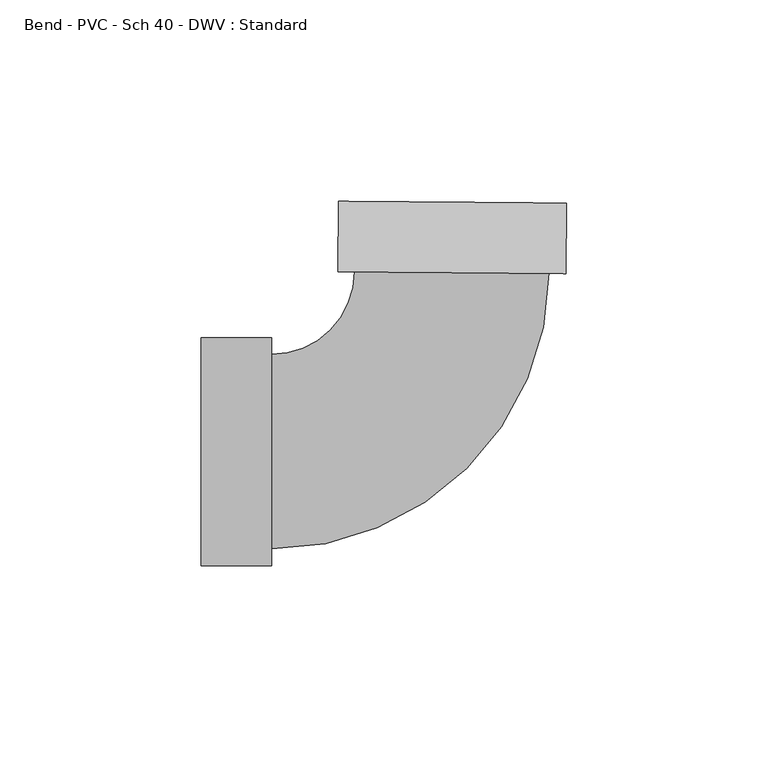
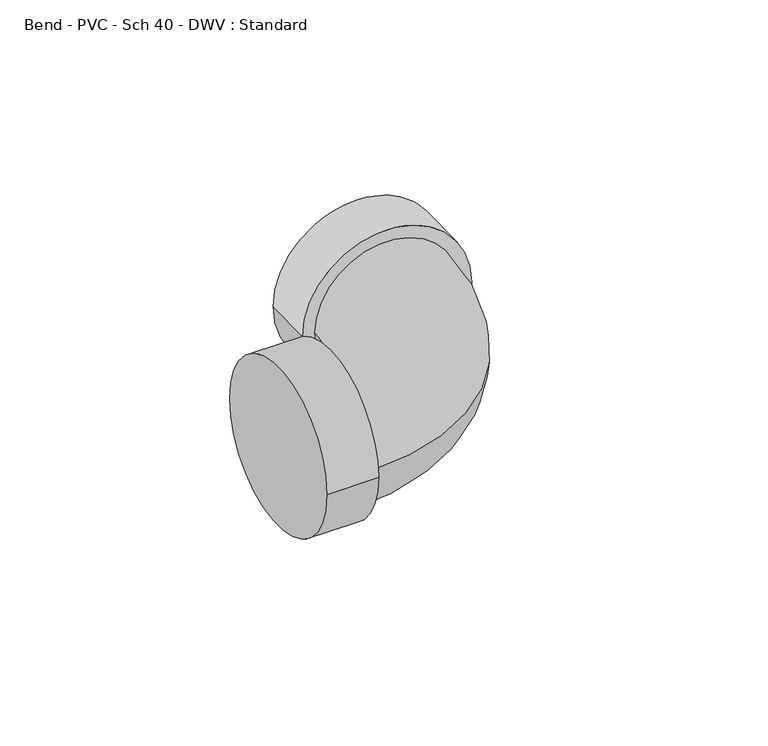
"""IFC4 building model written with IfcOpenShell, lengths in millimetres: pipe fitting geometry, Bend - PVC - Sch 40 - DWV : Standard."""

from ifc_helpers import new_model, si_unit, point, frame, origin, place, context, project, spatial, circle_curve, ellipse_curve, trimmed, source, transform, mapped, element, save
from ifc_brep_helpers import plane_surface, cylinder_surface, revolved_surface, advanced_brep


def bend_pvc_sch_40_dwv_standard_4b577b06(model_context):
    return source(origin(), model_context, "Body", "AdvancedBrep", [
        advanced_brep(
        [(-61.8998, -28.2829, 0.0), (-61.8998, 28.2829, 0.0), (-44.45, -28.2829, 0.0), (-44.45, 28.2829, 0.0), (-44.45, -24.13, 0.0), (-44.45, 24.13, 0.0), (-23.7624839, 44.6475504, 0.0), (24.4958739, 44.2494244, 0.0), (28.6486325, 44.2151647, 0.0), (-27.9152426, 44.6818102, 0.0), (28.7925865, 61.6643709, 0.0), (-27.7712886, 62.1310164, 0.0)],
        [
            (0, 1, circle_curve(frame((-61.8998, 0.0, 0.0), z_axis=(-1.0, 0.0, 0.0), x_axis=(0.0, 1.0, 0.0)), 28.2829)),
            (1, 0, circle_curve(frame((-61.8998, 0.0, 0.0), z_axis=(-1.0, 0.0, 0.0), x_axis=(0.0, 1.0, 0.0)), 28.2829)),
            (2, 3, circle_curve(frame((-44.45, 0.0, 0.0), z_axis=(1.0, 0.0, 0.0), x_axis=(0.0, 1.0, 0.0)), 28.2829)),
            (3, 2, circle_curve(frame((-44.45, 0.0, 0.0), z_axis=(1.0, 0.0, 0.0), x_axis=(0.0, 1.0, 0.0)), 28.2829)),
            (4, 5, circle_curve(frame((-44.45, 0.0, 0.0), z_axis=(-1.0, 0.0, 0.0), x_axis=(0.0, 1.0, 0.0)), 24.13)),
            (5, 4, circle_curve(frame((-44.45, 0.0, 0.0), z_axis=(-1.0, 0.0, 0.0), x_axis=(0.0, 1.0, 0.0)), 24.13)),
            (0, 2),
            (3, 1),
            (6, 5, circle_curve(frame((-44.45, 44.8182201, 0.0), z_axis=(0.0, 0.0, -1.0), x_axis=(0.0, -1.0, 0.0)), 20.6882201)),
            (4, 7, circle_curve(frame((-44.45, 44.8182201, 0.0), z_axis=(0.0, 0.0, 1.0), x_axis=(0.0, -1.0, 0.0)), 68.9482201)),
            (7, 6, circle_curve(frame((0.366695, 44.4484874, 0.0), z_axis=(-0.008249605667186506, -0.999965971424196, 0.0), x_axis=(-0.999965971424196, 0.008249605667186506, 0.0)), 24.13)),
            (6, 7, circle_curve(frame((0.366695, 44.4484874, 0.0), z_axis=(-0.008249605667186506, -0.999965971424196, 0.0), x_axis=(-0.999965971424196, 0.008249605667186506, 0.0)), 24.13)),
            (8, 9, circle_curve(frame((0.366695, 44.4484874, 0.0), z_axis=(-0.008249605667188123, -0.999965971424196, 0.0), x_axis=(-0.999965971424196, 0.008249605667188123, 0.0)), 28.2829)),
            (9, 8, circle_curve(frame((0.366695, 44.4484874, 0.0), z_axis=(-0.008249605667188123, -0.999965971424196, 0.0), x_axis=(-0.999965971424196, 0.008249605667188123, 0.0)), 28.2829)),
            (10, 11, circle_curve(frame((0.5106489, 61.8976936, 0.0), z_axis=(0.008249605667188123, 0.999965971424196, 0.0), x_axis=(-0.999965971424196, 0.008249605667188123, 0.0)), 28.2829)),
            (11, 10, circle_curve(frame((0.5106489, 61.8976936, 0.0), z_axis=(0.008249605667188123, 0.999965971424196, 0.0), x_axis=(-0.999965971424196, 0.008249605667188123, 0.0)), 28.2829)),
            (8, 10),
            (11, 9),
        ],
        [
            plane_surface(frame((-61.8998, 0.0, 0.0), z_axis=(-1.0, 0.0, 0.0), x_axis=(0.0, 0.0, 1.0))),
            plane_surface(frame((-44.45, 0.0, 0.0), z_axis=(1.0, 0.0, 0.0), x_axis=(0.0, 0.0, 1.0))),
            cylinder_surface(frame((-61.8998, 0.0, 0.0), z_axis=(-1.0, 0.0, 0.0), x_axis=(0.0, 1.0, 0.0)), 28.2829),
            revolved_surface(trimmed(ellipse_curve(frame((-44.45, 0.0, 0.0), z_axis=(-1.0, 0.0, 0.0), x_axis=(0.0, 1.0, 0.0)), 24.13, 24.13), [point((-44.45, -24.13, 0.0))], [point((-44.45, 24.13, 0.0))], True, "CARTESIAN"), (-44.45, 44.8182201, 0.0), (0.0, 0.0, 1.0)),
            revolved_surface(trimmed(ellipse_curve(frame((-44.45, 0.0, 0.0), z_axis=(-1.0, 0.0, 0.0), x_axis=(0.0, 1.0, 0.0)), 24.13, 24.13), [point((-44.45, 24.13, 0.0))], [point((-44.45, -24.13, 0.0))], True, "CARTESIAN"), (-44.45, 44.8182201, 0.0), (0.0, 0.0, 1.0)),
            plane_surface(frame((0.366695, 44.4484874, 0.0), z_axis=(-0.008249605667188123, -0.999965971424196, 0.0), x_axis=(0.0, 0.0, 1.0))),
            plane_surface(frame((0.5106489, 61.8976936, 0.0), z_axis=(0.008249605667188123, 0.999965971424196, 0.0), x_axis=(0.0, 0.0, 1.0))),
            cylinder_surface(frame((0.366695, 44.4484874, 0.0), z_axis=(-0.008249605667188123, -0.999965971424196, 0.0), x_axis=(-0.999965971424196, 0.008249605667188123, 0.0)), 28.2829),
        ],
        [
            (0, [[1, 2]]),
            (1, [[3, 4], [5, 6]]),
            (2, [[-1, 7, -4, 8]]),
            (2, [[-2, -8, -3, -7]]),
            (3, [[9, -5, 10, 11]]),
            (4, [[-9, 12, -10, -6]]),
            (5, [[13, 14], [-11, -12]]),
            (6, [[15, 16]]),
            (7, [[-13, 17, -16, 18]]),
            (7, [[-14, -18, -15, -17]]),
        ],
    ),
    ])


if __name__ == "__main__":
    model = new_model("IFC4")
    model_context = context("Model", 3, world=origin())
    ifc_project = project(units=[si_unit("LENGTHUNIT", "METRE", prefix="MILLI")], contexts=[model_context])
    site = spatial("IfcSite", under=ifc_project)
    building = spatial("IfcBuilding", under=site)
    placement = place(None, origin())
    bend_pvc_sch_40_dwv_standard_shape = bend_pvc_sch_40_dwv_standard_4b577b06(model_context)
    element("IfcPipeFitting", 1, ObjectType="Bend - PVC - Sch 40 - DWV : Standard", at=placement, inside=building, context=model_context, shape_type="MappedRepresentation", body=[
        mapped(bend_pvc_sch_40_dwv_standard_shape, transform((0.0, 0.0, 0.0), x_axis=(1.0, 0.0, 0.0), y_axis=(0.0, 1.0, 0.0), z_axis=(0.0, 0.0, 1.0))),
    ])
    save(model, "model.ifc")
